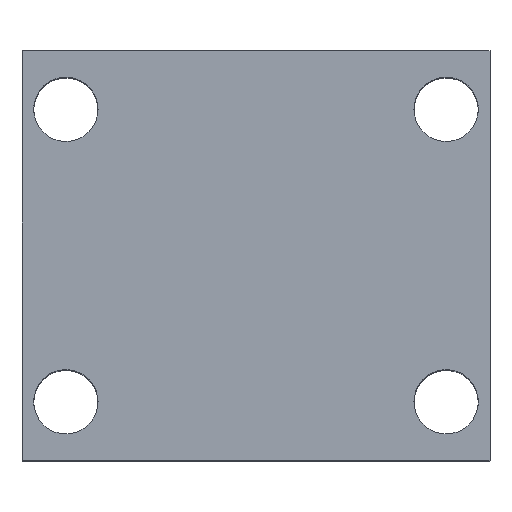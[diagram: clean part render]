
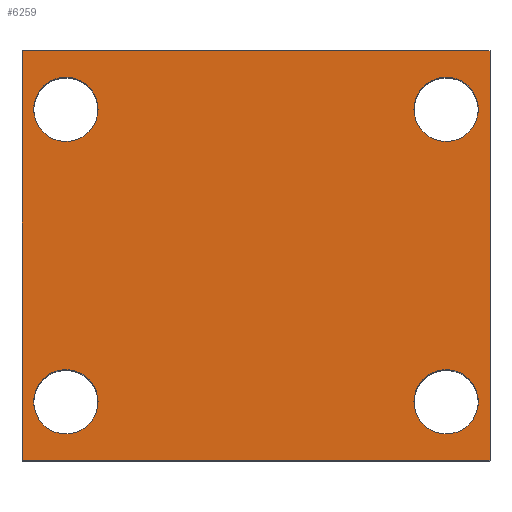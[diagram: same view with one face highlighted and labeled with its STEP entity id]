
A CAD part, top view. The second image highlights one B-rep face of the part: STEP entity #6259.
In plain terms, the highlighted planar face has unit normal (0, 0, 1).
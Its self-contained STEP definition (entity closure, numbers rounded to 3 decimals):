
#691 = DIRECTION ( 'NONE',  ( -1., 0., 0. ) ) ;
#737 = DIRECTION ( 'NONE',  ( -1., 0., 0. ) ) ;
#752 = EDGE_CURVE ( 'NONE', #6487, #9399, #3412, .T. ) ;
#985 = EDGE_CURVE ( 'NONE', #15722, #7654, #1640, .T. ) ;
#1000 = VERTEX_POINT ( 'NONE', #14441 ) ;
#1231 = CIRCLE ( 'NONE', #9480, 11. ) ;
#1640 = LINE ( 'NONE', #14185, #15333 ) ;
#1718 = AXIS2_PLACEMENT_3D ( 'NONE', #6743, #16302, #8098 ) ;
#1775 = EDGE_CURVE ( 'NONE', #12870, #4055, #7013, .T. ) ;
#1820 = CARTESIAN_POINT ( 'NONE',  ( -65., 120., 90. ) ) ;
#2119 = CIRCLE ( 'NONE', #7681, 11. ) ;
#2495 = EDGE_CURVE ( 'NONE', #7426, #9837, #8690, .T. ) ;
#2506 = VERTEX_POINT ( 'NONE', #14371 ) ;
#2841 = DIRECTION ( 'NONE',  ( 0., -1., 0. ) ) ;
#3239 = DIRECTION ( 'NONE',  ( -1., 0., 0. ) ) ;
#3412 = CIRCLE ( 'NONE', #4267, 11. ) ;
#4052 = PLANE ( 'NONE',  #6599 ) ;
#4055 = VERTEX_POINT ( 'NONE', #10257 ) ;
#4267 = AXIS2_PLACEMENT_3D ( 'NONE', #11662, #11810, #11790 ) ;
#4327 = EDGE_LOOP ( 'NONE', ( #7957, #10942, #7669, #6729 ) ) ;
#4481 = CARTESIAN_POINT ( 'NONE',  ( -80., 0., 90. ) ) ;
#4485 = EDGE_CURVE ( 'NONE', #9837, #7426, #17508, .T. ) ;
#4889 = DIRECTION ( 'NONE',  ( 0., 0., -1. ) ) ;
#5522 = CARTESIAN_POINT ( 'NONE',  ( -80., 140., 90. ) ) ;
#5721 = VERTEX_POINT ( 'NONE', #8043 ) ;
#5854 = DIRECTION ( 'NONE',  ( 0., 0., -1. ) ) ;
#6145 = DIRECTION ( 'NONE',  ( 0., 0., -1. ) ) ;
#6259 = ADVANCED_FACE ( 'NONE', ( #10995, #10581, #15938, #13753, #10163 ), #4052, .F. ) ;
#6301 = EDGE_CURVE ( 'NONE', #5721, #1000, #13331, .T. ) ;
#6339 = CARTESIAN_POINT ( 'NONE',  ( -54., 120., 90. ) ) ;
#6396 = CARTESIAN_POINT ( 'NONE',  ( -54., 20., 90. ) ) ;
#6487 = VERTEX_POINT ( 'NONE', #17143 ) ;
#6599 = AXIS2_PLACEMENT_3D ( 'NONE', #16401, #8199, #17822 ) ;
#6729 = ORIENTED_EDGE ( 'NONE', *, *, #985, .T. ) ;
#6737 = DIRECTION ( 'NONE',  ( 1., 0., 0. ) ) ;
#6743 = CARTESIAN_POINT ( 'NONE',  ( -65., 120., 90. ) ) ;
#7013 = CIRCLE ( 'NONE', #1718, 11. ) ;
#7064 = VERTEX_POINT ( 'NONE', #11082 ) ;
#7220 = EDGE_CURVE ( 'NONE', #4055, #12870, #7592, .T. ) ;
#7250 = LINE ( 'NONE', #12226, #10447 ) ;
#7304 = ORIENTED_EDGE ( 'NONE', *, *, #2495, .T. ) ;
#7426 = VERTEX_POINT ( 'NONE', #6396 ) ;
#7496 = ORIENTED_EDGE ( 'NONE', *, *, #7220, .T. ) ;
#7592 = CIRCLE ( 'NONE', #9906, 11. ) ;
#7654 = VERTEX_POINT ( 'NONE', #4481 ) ;
#7669 = ORIENTED_EDGE ( 'NONE', *, *, #8380, .F. ) ;
#7681 = AXIS2_PLACEMENT_3D ( 'NONE', #13972, #5854, #15367 ) ;
#7931 = CARTESIAN_POINT ( 'NONE',  ( -80., 140., 90. ) ) ;
#7957 = ORIENTED_EDGE ( 'NONE', *, *, #15789, .T. ) ;
#8043 = CARTESIAN_POINT ( 'NONE',  ( 80., 140., 90. ) ) ;
#8098 = DIRECTION ( 'NONE',  ( -1., 0., 0. ) ) ;
#8199 = DIRECTION ( 'NONE',  ( 0., 0., -1. ) ) ;
#8380 = EDGE_CURVE ( 'NONE', #15722, #5721, #15468, .T. ) ;
#8674 = ORIENTED_EDGE ( 'NONE', *, *, #13217, .T. ) ;
#8690 = CIRCLE ( 'NONE', #13280, 11. ) ;
#8916 = DIRECTION ( 'NONE',  ( 0., 0., -1. ) ) ;
#8961 = DIRECTION ( 'NONE',  ( 0., 0., -1. ) ) ;
#9399 = VERTEX_POINT ( 'NONE', #10654 ) ;
#9480 = AXIS2_PLACEMENT_3D ( 'NONE', #13046, #4889, #14393 ) ;
#9558 = DIRECTION ( 'NONE',  ( 0., -1., 0. ) ) ;
#9630 = CARTESIAN_POINT ( 'NONE',  ( 80., 140., 90. ) ) ;
#9695 = ORIENTED_EDGE ( 'NONE', *, *, #752, .T. ) ;
#9837 = VERTEX_POINT ( 'NONE', #10687 ) ;
#9906 = AXIS2_PLACEMENT_3D ( 'NONE', #1820, #11392, #3239 ) ;
#10163 = FACE_OUTER_BOUND ( 'NONE', #4327, .T. ) ;
#10257 = CARTESIAN_POINT ( 'NONE',  ( -76., 120., 90. ) ) ;
#10447 = VECTOR ( 'NONE', #6737, 1000. ) ;
#10581 = FACE_BOUND ( 'NONE', #12207, .T. ) ;
#10654 = CARTESIAN_POINT ( 'NONE',  ( 76., 20., 90. ) ) ;
#10687 = CARTESIAN_POINT ( 'NONE',  ( -76., 20., 90. ) ) ;
#10860 = DIRECTION ( 'NONE',  ( 1., 0., 0. ) ) ;
#10906 = EDGE_LOOP ( 'NONE', ( #9695, #12631 ) ) ;
#10942 = ORIENTED_EDGE ( 'NONE', *, *, #6301, .F. ) ;
#10995 = FACE_BOUND ( 'NONE', #11774, .T. ) ;
#11082 = CARTESIAN_POINT ( 'NONE',  ( 76., 120., 90. ) ) ;
#11392 = DIRECTION ( 'NONE',  ( 0., 0., -1. ) ) ;
#11662 = CARTESIAN_POINT ( 'NONE',  ( 65., 20., 90. ) ) ;
#11774 = EDGE_LOOP ( 'NONE', ( #7496, #12071 ) ) ;
#11790 = DIRECTION ( 'NONE',  ( -1., 0., 0. ) ) ;
#11810 = DIRECTION ( 'NONE',  ( 0., 0., -1. ) ) ;
#12003 = AXIS2_PLACEMENT_3D ( 'NONE', #14269, #6145, #15674 ) ;
#12071 = ORIENTED_EDGE ( 'NONE', *, *, #1775, .T. ) ;
#12207 = EDGE_LOOP ( 'NONE', ( #14262, #7304 ) ) ;
#12226 = CARTESIAN_POINT ( 'NONE',  ( -80., 0., 90. ) ) ;
#12620 = ORIENTED_EDGE ( 'NONE', *, *, #17682, .T. ) ;
#12631 = ORIENTED_EDGE ( 'NONE', *, *, #13336, .T. ) ;
#12870 = VERTEX_POINT ( 'NONE', #6339 ) ;
#13046 = CARTESIAN_POINT ( 'NONE',  ( 65., 20., 90. ) ) ;
#13058 = EDGE_LOOP ( 'NONE', ( #12620, #8674 ) ) ;
#13217 = EDGE_CURVE ( 'NONE', #7064, #2506, #2119, .T. ) ;
#13280 = AXIS2_PLACEMENT_3D ( 'NONE', #17201, #8961, #737 ) ;
#13331 = LINE ( 'NONE', #9630, #16583 ) ;
#13336 = EDGE_CURVE ( 'NONE', #9399, #6487, #1231, .T. ) ;
#13753 = FACE_BOUND ( 'NONE', #13058, .T. ) ;
#13972 = CARTESIAN_POINT ( 'NONE',  ( 65., 120., 90. ) ) ;
#14185 = CARTESIAN_POINT ( 'NONE',  ( -80., 140., 90. ) ) ;
#14262 = ORIENTED_EDGE ( 'NONE', *, *, #4485, .T. ) ;
#14269 = CARTESIAN_POINT ( 'NONE',  ( 65., 120., 90. ) ) ;
#14371 = CARTESIAN_POINT ( 'NONE',  ( 54., 120., 90. ) ) ;
#14393 = DIRECTION ( 'NONE',  ( -1., 0., 0. ) ) ;
#14441 = CARTESIAN_POINT ( 'NONE',  ( 80., 0., 90. ) ) ;
#15032 = VECTOR ( 'NONE', #10860, 1000. ) ;
#15333 = VECTOR ( 'NONE', #9558, 1000. ) ;
#15367 = DIRECTION ( 'NONE',  ( -1., 0., 0. ) ) ;
#15468 = LINE ( 'NONE', #5522, #15032 ) ;
#15674 = DIRECTION ( 'NONE',  ( -1., 0., 0. ) ) ;
#15722 = VERTEX_POINT ( 'NONE', #7931 ) ;
#15789 = EDGE_CURVE ( 'NONE', #7654, #1000, #7250, .T. ) ;
#15938 = FACE_BOUND ( 'NONE', #10906, .T. ) ;
#16198 = AXIS2_PLACEMENT_3D ( 'NONE', #17152, #8916, #691 ) ;
#16302 = DIRECTION ( 'NONE',  ( 0., 0., -1. ) ) ;
#16401 = CARTESIAN_POINT ( 'NONE',  ( -80., 140., 90. ) ) ;
#16583 = VECTOR ( 'NONE', #2841, 1000. ) ;
#17143 = CARTESIAN_POINT ( 'NONE',  ( 54., 20., 90. ) ) ;
#17152 = CARTESIAN_POINT ( 'NONE',  ( -65., 20., 90. ) ) ;
#17201 = CARTESIAN_POINT ( 'NONE',  ( -65., 20., 90. ) ) ;
#17301 = CIRCLE ( 'NONE', #12003, 11. ) ;
#17508 = CIRCLE ( 'NONE', #16198, 11. ) ;
#17682 = EDGE_CURVE ( 'NONE', #2506, #7064, #17301, .T. ) ;
#17822 = DIRECTION ( 'NONE',  ( -1., 0., 0. ) ) ;
